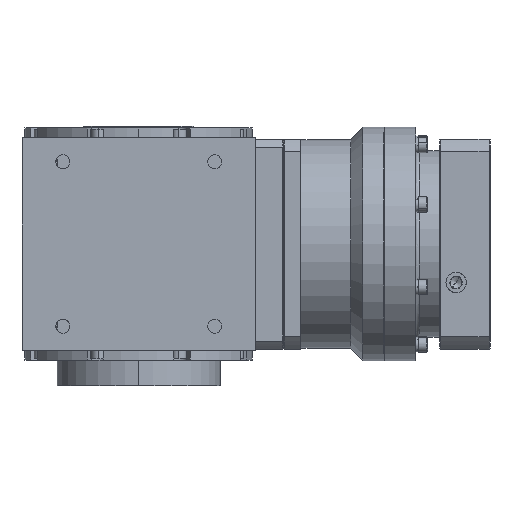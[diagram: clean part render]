
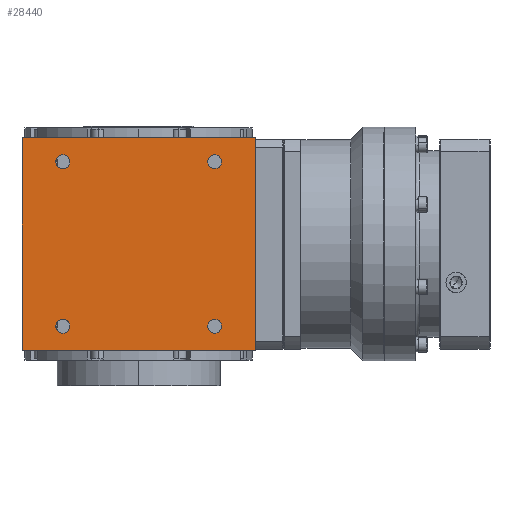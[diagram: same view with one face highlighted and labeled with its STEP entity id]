
A CAD part, left-side view. The second image highlights one B-rep face of the part: STEP entity #28440.
In plain terms, the highlighted planar face has unit normal (-1, 0, 0).
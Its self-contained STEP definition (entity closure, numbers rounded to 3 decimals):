
#158 = AXIS2_PLACEMENT_3D ( 'NONE', #15850, #20929, #35251 ) ;
#368 = DIRECTION ( 'NONE',  ( 0., -1., 0. ) ) ;
#685 = EDGE_CURVE ( 'NONE', #6846, #16756, #11691, .T. ) ;
#945 = LINE ( 'NONE', #14370, #4656 ) ;
#1029 = DIRECTION ( 'NONE',  ( 1., 0., 0. ) ) ;
#1087 = CARTESIAN_POINT ( 'NONE',  ( -100., 0., 91. ) ) ;
#1124 = ORIENTED_EDGE ( 'NONE', *, *, #19849, .T. ) ;
#1130 = AXIS2_PLACEMENT_3D ( 'NONE', #9562, #1029, #34219 ) ;
#1311 = CIRCLE ( 'NONE', #27359, 6. ) ;
#1748 = CIRCLE ( 'NONE', #22576, 6. ) ;
#2255 = VERTEX_POINT ( 'NONE', #11475 ) ;
#2876 = VERTEX_POINT ( 'NONE', #24625 ) ;
#3266 = CARTESIAN_POINT ( 'NONE',  ( -100., 64.966, -70.5 ) ) ;
#3421 = VERTEX_POINT ( 'NONE', #14060 ) ;
#3870 = EDGE_LOOP ( 'NONE', ( #11600, #25041 ) ) ;
#4420 = ORIENTED_EDGE ( 'NONE', *, *, #13534, .T. ) ;
#4655 = EDGE_CURVE ( 'NONE', #21600, #2876, #5328, .T. ) ;
#4656 = VECTOR ( 'NONE', #25597, 1000. ) ;
#4709 = AXIS2_PLACEMENT_3D ( 'NONE', #29815, #26364, #26721 ) ;
#4838 = CARTESIAN_POINT ( 'NONE',  ( -100., -100., 91. ) ) ;
#5328 = CIRCLE ( 'NONE', #25593, 6. ) ;
#5419 = FACE_BOUND ( 'NONE', #3870, .T. ) ;
#5529 = ORIENTED_EDGE ( 'NONE', *, *, #27491, .T. ) ;
#5602 = FACE_BOUND ( 'NONE', #10422, .T. ) ;
#5983 = ORIENTED_EDGE ( 'NONE', *, *, #11340, .F. ) ;
#6549 = LINE ( 'NONE', #1087, #7314 ) ;
#6846 = VERTEX_POINT ( 'NONE', #32721 ) ;
#7314 = VECTOR ( 'NONE', #9446, 1000. ) ;
#7417 = DIRECTION ( 'NONE',  ( 0., -1., 0. ) ) ;
#7688 = CARTESIAN_POINT ( 'NONE',  ( -100., 100., 91. ) ) ;
#7696 = ORIENTED_EDGE ( 'NONE', *, *, #19334, .T. ) ;
#7954 = CARTESIAN_POINT ( 'NONE',  ( -100., 58.966, -70.5 ) ) ;
#8190 = DIRECTION ( 'NONE',  ( 1., 0., 0. ) ) ;
#8861 = DIRECTION ( 'NONE',  ( -1., 0., 0. ) ) ;
#9352 = ORIENTED_EDGE ( 'NONE', *, *, #4655, .T. ) ;
#9446 = DIRECTION ( 'NONE',  ( 0., -1., 0. ) ) ;
#9562 = CARTESIAN_POINT ( 'NONE',  ( -100., -65.034, 70.5 ) ) ;
#10066 = DIRECTION ( 'NONE',  ( 1., 0., 0. ) ) ;
#10146 = DIRECTION ( 'NONE',  ( 0., -1., 0. ) ) ;
#10359 = VERTEX_POINT ( 'NONE', #7688 ) ;
#10422 = EDGE_LOOP ( 'NONE', ( #5529, #9352 ) ) ;
#10515 = FACE_BOUND ( 'NONE', #10922, .T. ) ;
#10759 = ORIENTED_EDGE ( 'NONE', *, *, #25468, .F. ) ;
#10922 = EDGE_LOOP ( 'NONE', ( #26444, #7696 ) ) ;
#10923 = CIRCLE ( 'NONE', #158, 6. ) ;
#11340 = EDGE_CURVE ( 'NONE', #10359, #15659, #6549, .T. ) ;
#11475 = CARTESIAN_POINT ( 'NONE',  ( -100., -59.034, -70.5 ) ) ;
#11600 = ORIENTED_EDGE ( 'NONE', *, *, #11853, .T. ) ;
#11691 = LINE ( 'NONE', #17305, #16572 ) ;
#11842 = AXIS2_PLACEMENT_3D ( 'NONE', #14473, #8861, #28421 ) ;
#11853 = EDGE_CURVE ( 'NONE', #3421, #2255, #27563, .T. ) ;
#13357 = CARTESIAN_POINT ( 'NONE',  ( -100., -100., -91. ) ) ;
#13534 = EDGE_CURVE ( 'NONE', #16756, #15659, #26386, .T. ) ;
#13619 = CARTESIAN_POINT ( 'NONE',  ( -100., 70.966, 70.5 ) ) ;
#14060 = CARTESIAN_POINT ( 'NONE',  ( -100., -71.034, -70.5 ) ) ;
#14370 = CARTESIAN_POINT ( 'NONE',  ( -100., 100., -91. ) ) ;
#14473 = CARTESIAN_POINT ( 'NONE',  ( -100., 100., -91. ) ) ;
#14786 = AXIS2_PLACEMENT_3D ( 'NONE', #3266, #23209, #368 ) ;
#15575 = CARTESIAN_POINT ( 'NONE',  ( -100., 64.966, 70.5 ) ) ;
#15659 = VERTEX_POINT ( 'NONE', #4838 ) ;
#15850 = CARTESIAN_POINT ( 'NONE',  ( -100., 64.966, -70.5 ) ) ;
#15920 = CIRCLE ( 'NONE', #14786, 6. ) ;
#16031 = EDGE_CURVE ( 'NONE', #2255, #3421, #1748, .T. ) ;
#16572 = VECTOR ( 'NONE', #22749, 1000. ) ;
#16656 = FACE_OUTER_BOUND ( 'NONE', #33449, .T. ) ;
#16756 = VERTEX_POINT ( 'NONE', #13357 ) ;
#17305 = CARTESIAN_POINT ( 'NONE',  ( -100., 100., -91. ) ) ;
#17654 = CARTESIAN_POINT ( 'NONE',  ( -100., -59.034, 70.5 ) ) ;
#18282 = CARTESIAN_POINT ( 'NONE',  ( -100., -65.034, -70.5 ) ) ;
#18510 = CIRCLE ( 'NONE', #1130, 6. ) ;
#18925 = EDGE_LOOP ( 'NONE', ( #1124, #32216 ) ) ;
#19039 = CARTESIAN_POINT ( 'NONE',  ( -100., 70.966, -70.5 ) ) ;
#19334 = EDGE_CURVE ( 'NONE', #33408, #28450, #18510, .T. ) ;
#19849 = EDGE_CURVE ( 'NONE', #23231, #24023, #10923, .T. ) ;
#20929 = DIRECTION ( 'NONE',  ( 1., 0., 0. ) ) ;
#21127 = DIRECTION ( 'NONE',  ( 0., -1., 0. ) ) ;
#21312 = DIRECTION ( 'NONE',  ( 0., 0., 1. ) ) ;
#21572 = FACE_BOUND ( 'NONE', #18925, .T. ) ;
#21600 = VERTEX_POINT ( 'NONE', #13619 ) ;
#21661 = EDGE_CURVE ( 'NONE', #24023, #23231, #15920, .T. ) ;
#22317 = DIRECTION ( 'NONE',  ( 0., -1., 0. ) ) ;
#22576 = AXIS2_PLACEMENT_3D ( 'NONE', #33017, #8190, #22317 ) ;
#22749 = DIRECTION ( 'NONE',  ( 0., -1., 0. ) ) ;
#23209 = DIRECTION ( 'NONE',  ( 1., 0., 0. ) ) ;
#23231 = VERTEX_POINT ( 'NONE', #7954 ) ;
#24023 = VERTEX_POINT ( 'NONE', #19039 ) ;
#24395 = CIRCLE ( 'NONE', #4709, 6. ) ;
#24625 = CARTESIAN_POINT ( 'NONE',  ( -100., 58.966, 70.5 ) ) ;
#25041 = ORIENTED_EDGE ( 'NONE', *, *, #16031, .T. ) ;
#25168 = CARTESIAN_POINT ( 'NONE',  ( -100., -71.034, 70.5 ) ) ;
#25468 = EDGE_CURVE ( 'NONE', #6846, #10359, #945, .T. ) ;
#25593 = AXIS2_PLACEMENT_3D ( 'NONE', #15575, #29710, #10146 ) ;
#25597 = DIRECTION ( 'NONE',  ( 0., 0., 1. ) ) ;
#26234 = EDGE_CURVE ( 'NONE', #28450, #33408, #24395, .T. ) ;
#26364 = DIRECTION ( 'NONE',  ( 1., 0., 0. ) ) ;
#26386 = LINE ( 'NONE', #26560, #34961 ) ;
#26444 = ORIENTED_EDGE ( 'NONE', *, *, #26234, .T. ) ;
#26560 = CARTESIAN_POINT ( 'NONE',  ( -100., -100., -91. ) ) ;
#26721 = DIRECTION ( 'NONE',  ( 0., -1., 0. ) ) ;
#27359 = AXIS2_PLACEMENT_3D ( 'NONE', #29825, #10066, #21127 ) ;
#27491 = EDGE_CURVE ( 'NONE', #2876, #21600, #1311, .T. ) ;
#27563 = CIRCLE ( 'NONE', #35687, 6. ) ;
#27699 = PLANE ( 'NONE',  #11842 ) ;
#27951 = ORIENTED_EDGE ( 'NONE', *, *, #685, .T. ) ;
#28421 = DIRECTION ( 'NONE',  ( 0., 0., 1. ) ) ;
#28440 = ADVANCED_FACE ( 'NONE', ( #10515, #21572, #5419, #5602, #16656 ), #27699, .T. ) ;
#28450 = VERTEX_POINT ( 'NONE', #25168 ) ;
#29710 = DIRECTION ( 'NONE',  ( 1., 0., 0. ) ) ;
#29815 = CARTESIAN_POINT ( 'NONE',  ( -100., -65.034, 70.5 ) ) ;
#29825 = CARTESIAN_POINT ( 'NONE',  ( -100., 64.966, 70.5 ) ) ;
#32216 = ORIENTED_EDGE ( 'NONE', *, *, #21661, .T. ) ;
#32252 = DIRECTION ( 'NONE',  ( 1., 0., 0. ) ) ;
#32721 = CARTESIAN_POINT ( 'NONE',  ( -100., 100., -91. ) ) ;
#33017 = CARTESIAN_POINT ( 'NONE',  ( -100., -65.034, -70.5 ) ) ;
#33408 = VERTEX_POINT ( 'NONE', #17654 ) ;
#33449 = EDGE_LOOP ( 'NONE', ( #4420, #5983, #10759, #27951 ) ) ;
#34219 = DIRECTION ( 'NONE',  ( 0., -1., 0. ) ) ;
#34961 = VECTOR ( 'NONE', #21312, 1000. ) ;
#35251 = DIRECTION ( 'NONE',  ( 0., -1., 0. ) ) ;
#35687 = AXIS2_PLACEMENT_3D ( 'NONE', #18282, #32252, #7417 ) ;
